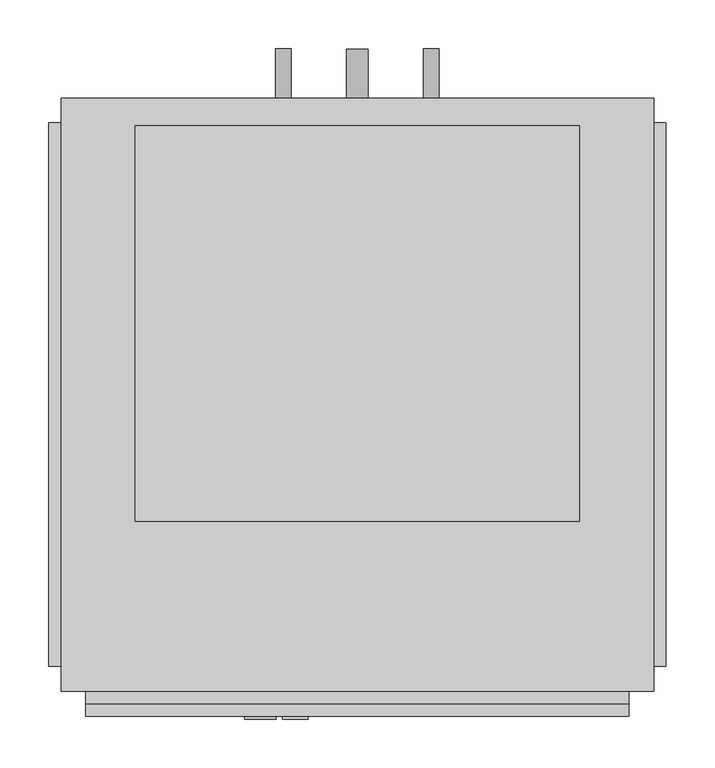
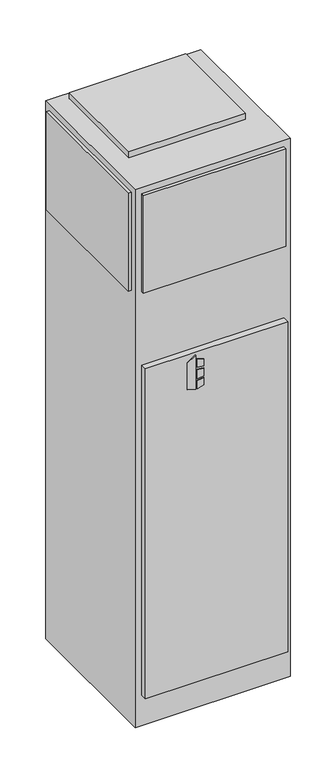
"""IFC4 building model written with IfcOpenShell, lengths in millimetres: proxy geometry, Concealed_Universal_Modular_Fan_Coil_Unit_-_MUY_-_IEC_-_2-Pipe_Cool-EHeat_-_NoRisers_2022 : Size 10 - 277v/60Hz/1Ph - 4 Row 8.0kW."""

from ifc_helpers import new_model, si_unit, point, frame, frame_2d, origin, origin_with_axes, place, context, project, spatial, polyline, circle_curve, trimmed, segment, composite_curve, outline, extrude, source, transform, mapped, element, save


def mechanical_equipment_a0cf3d25(model_context):
    return source(origin(), model_context, "Body", "SweptSolid", [
        extrude(outline(polyline([(1356.1480703, 341.3868862), (1346.2, 373.5602728), (1488.3709244, 373.5602728), (1465.3489183, 341.3868862), (1356.1480703, 341.3868862)])), frame((0.0, -393.7, 0.0), z_axis=(0.0, 1.0, 0.0), x_axis=(0.0, 0.0, 1.0)), (0.0, 0.0, 1.0), 3.175),
        extrude(outline(polyline([(1435.1473557, 380.3186058), (1431.9449632, 406.4), (1461.1738042, 406.4), (1469.2382193, 380.3186058), (1435.1473557, 380.3186058)])), frame((0.0, -393.7, 0.0), z_axis=(0.0, 1.0, 0.0), x_axis=(0.0, 0.0, 1.0)), (0.0, 0.0, 1.0), 3.175),
        extrude(outline(polyline([(1383.2838288, 406.4), (1379.6183279, 380.3186058), (1346.2, 380.3186058), (1354.8342372, 406.4), (1383.2838288, 406.4)])), frame((0.0, -393.7, 0.0), z_axis=(0.0, 1.0, 0.0), x_axis=(0.0, 0.0, 1.0)), (0.0, 0.0, 1.0), 3.175),
        extrude(outline(polyline([(1422.5989903, 406.4), (1424.8808166, 380.3186058), (1388.9432681, 380.3186058), (1391.6845331, 406.4), (1422.5989903, 406.4)])), frame((0.0, -393.7, 0.0), z_axis=(0.0, 1.0, 0.0), x_axis=(0.0, 0.0, 1.0)), (0.0, 0.0, 1.0), 3.175),
        extrude(outline(composite_curve([segment(trimmed(circle_curve(frame_2d((990.6, 533.4)), 7.9375), [point((990.6, 525.4625))], [point((990.6, 541.3375))], False, "CARTESIAN"), True, "CONTINUOUS"), segment(trimmed(circle_curve(frame_2d((990.6, 533.4)), 7.9375), [point((990.6, 541.3375))], [point((990.6, 525.4625))], False, "CARTESIAN"), True, "CONTINUOUS")], self_intersect=False)), frame((0.0, 244.475, 0.0), z_axis=(0.0, 1.0, 0.0), x_axis=(0.0, 0.0, 1.0)), (0.0, 0.0, 1.0), 50.8),
        extrude(outline(composite_curve([segment(trimmed(circle_curve(frame_2d((990.6, 381.0)), 7.9375), [point((990.6, 373.0625))], [point((990.6, 388.9375))], False, "CARTESIAN"), True, "CONTINUOUS"), segment(trimmed(circle_curve(frame_2d((990.6, 381.0)), 7.9375), [point((990.6, 388.9375))], [point((990.6, 373.0625))], False, "CARTESIAN"), True, "CONTINUOUS")], self_intersect=False)), frame((0.0, 244.475, 0.0), z_axis=(0.0, 1.0, 0.0), x_axis=(0.0, 0.0, 1.0)), (0.0, 0.0, 1.0), 50.8),
        extrude(outline(composite_curve([segment(trimmed(circle_curve(frame_2d((76.2, 457.2)), 11.1125), [point((76.2, 446.0875))], [point((76.2, 468.3125))], False, "CARTESIAN"), True, "CONTINUOUS"), segment(trimmed(circle_curve(frame_2d((76.2, 457.2)), 11.1125), [point((76.2, 468.3125))], [point((76.2, 446.0875))], False, "CARTESIAN"), True, "CONTINUOUS")], self_intersect=False)), frame((0.0, 244.475, 0.0), z_axis=(0.0, 1.0, 0.0), x_axis=(0.0, 0.0, 1.0)), (0.0, 0.0, 1.0), 50.8),
        extrude(outline(polyline([(685.8, 215.9), (685.8, -190.5), (228.6, -190.5), (228.6, 215.9), (685.8, 215.9)])), frame((0.0, 0.0, 2235.2), z_axis=(0.0, 0.0, 1.0), x_axis=(1.0, 0.0, 0.0)), (0.0, 0.0, 1.0), 25.4),
        extrude(outline(polyline([(139.7, -339.725), (139.7, 219.075), (152.4, 219.075), (152.4, -339.725), (139.7, -339.725)])), frame((0.0, 0.0, 1803.4), z_axis=(0.0, 0.0, 1.0), x_axis=(1.0, 0.0, 0.0)), (0.0, 0.0, 1.0), 406.4),
        extrude(outline(polyline([(774.7, 219.075), (774.7, -339.725), (762.0, -339.725), (762.0, 219.075), (774.7, 219.075)])), frame((0.0, 0.0, 1803.4), z_axis=(0.0, 0.0, 1.0), x_axis=(1.0, 0.0, 0.0)), (0.0, 0.0, 1.0), 406.4),
        extrude(outline(polyline([(736.6, -377.825), (177.8, -377.825), (177.8, -365.125), (736.6, -365.125), (736.6, -377.825)])), frame((0.0, 0.0, 1803.4), z_axis=(0.0, 0.0, 1.0), x_axis=(1.0, 0.0, 0.0)), (0.0, 0.0, 1.0), 406.4),
        extrude(outline(polyline([(736.6, -390.525), (177.8, -390.525), (177.8, -365.125), (736.6, -365.125), (736.6, -390.525)])), frame((0.0, 0.0, 127.0), z_axis=(0.0, 0.0, 1.0), x_axis=(1.0, 0.0, 0.0)), (0.0, 0.0, 1.0), 1371.6),
        extrude(outline(polyline([(762.0, 244.475), (762.0, -365.125), (152.4, -365.125), (152.4, 244.475), (762.0, 244.475)])), origin_with_axes(), (0.0, 0.0, 1.0), 2235.2),
    ])


if __name__ == "__main__":
    model = new_model("IFC4")
    model_context = context("Model", 3, world=origin())
    ifc_project = project(units=[si_unit("LENGTHUNIT", "METRE", prefix="MILLI")], contexts=[model_context])
    site = spatial("IfcSite", under=ifc_project)
    building = spatial("IfcBuilding", under=site)
    placement = place(None, origin())
    mechanical_equipment_shape = mechanical_equipment_a0cf3d25(model_context)
    element("IfcBuildingElementProxy", 1, Name="Concealed_Universal_Modular_Fan_Coil_Unit_-_MUY_-_IEC_-_2-Pipe_Cool-EHeat_-_NoRisers_2022 : Size 10 - 277v/60Hz/1Ph - 4 Row 8.0kW", ObjectType="Concealed_Universal_Modular_Fan_Coil_Unit_-_MUY_-_IEC_-_2-Pipe_Cool-EHeat_-_NoRisers_2022 : Size 10 - 277v/60Hz/1Ph - 4 Row 8.0kW", at=placement, inside=building, context=model_context, shape_type="MappedRepresentation", body=[
        mapped(mechanical_equipment_shape, transform((0.0, 0.0, 0.0), x_axis=(1.0, 0.0, 0.0), y_axis=(0.0, 1.0, 0.0), z_axis=(0.0, 0.0, 1.0))),
    ])
    save(model, "model.ifc")
